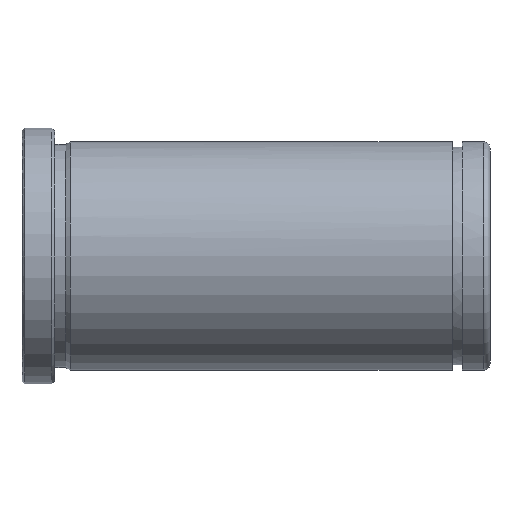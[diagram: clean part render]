
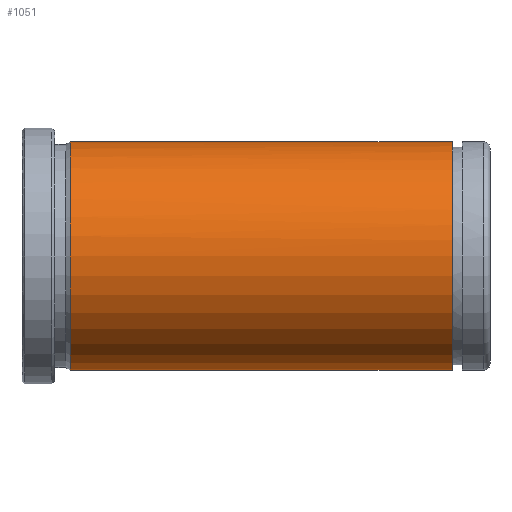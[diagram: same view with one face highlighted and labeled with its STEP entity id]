
A CAD part, front view. The second image highlights one B-rep face of the part: STEP entity #1051.
In plain terms, the highlighted cylindrical face has radius 21 mm (diameter 42 mm), a partial arc.
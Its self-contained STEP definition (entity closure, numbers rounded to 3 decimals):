
#851=CARTESIAN_POINT('Vertex',(8.866,0.,-21.)) ;
#858=CARTESIAN_POINT('Vertex',(8.866,0.,21.)) ;
#887=CARTESIAN_POINT('Axis2P3D Location',(8.866,0.,0.)) ;
#891=CARTESIAN_POINT('Vertex',(8.866,-21.,0.)) ;
#894=CARTESIAN_POINT('Axis2P3D Location',(8.866,0.,0.)) ;
#985=CARTESIAN_POINT('Line Origine',(172.,0.,21.)) ;
#989=CARTESIAN_POINT('Vertex',(79.05,0.,21.)) ;
#1006=CARTESIAN_POINT('Vertex',(79.05,0.,-21.)) ;
#1009=CARTESIAN_POINT('Line Origine',(172.,0.,-21.)) ;
#1023=CARTESIAN_POINT('Axis2P3D Location',(172.,0.,0.)) ;
#1028=CARTESIAN_POINT('Axis2P3D Location',(79.05,0.,0.)) ;
#1032=CARTESIAN_POINT('Vertex',(79.05,-21.,0.)) ;
#1036=CARTESIAN_POINT('Control Point',(79.05,0.,21.)) ;
#1037=CARTESIAN_POINT('Control Point',(79.05,-6.597,21.)) ;
#1038=CARTESIAN_POINT('Control Point',(79.05,-13.201,18.417)) ;
#1039=CARTESIAN_POINT('Control Point',(79.05,-18.417,13.201)) ;
#1040=CARTESIAN_POINT('Control Point',(79.05,-21.,6.597)) ;
#1041=CARTESIAN_POINT('Control Point',(79.05,-21.,0.)) ;
#888=DIRECTION('Axis2P3D Direction',(1.,0.,-0.)) ;
#895=DIRECTION('Axis2P3D Direction',(1.,0.,-0.)) ;
#986=DIRECTION('Vector Direction',(-1.,0.,0.)) ;
#1010=DIRECTION('Vector Direction',(-1.,0.,0.)) ;
#1024=DIRECTION('Axis2P3D Direction',(-1.,-0.,-0.)) ;
#1025=DIRECTION('Axis2P3D XDirection',(0.,0.,-1.)) ;
#1029=DIRECTION('Axis2P3D Direction',(-1.,-0.,-0.)) ;
#889=AXIS2_PLACEMENT_3D('Circle Axis2P3D',#887,#888,$) ;
#896=AXIS2_PLACEMENT_3D('Circle Axis2P3D',#894,#895,$) ;
#1026=AXIS2_PLACEMENT_3D('Cylinder Axis2P3D',#1023,#1024,#1025) ;
#1030=AXIS2_PLACEMENT_3D('Circle Axis2P3D',#1028,#1029,$) ;
#1044=ORIENTED_EDGE('',*,*,#1013,.T.) ;
#1045=ORIENTED_EDGE('',*,*,#1034,.F.) ;
#1046=ORIENTED_EDGE('',*,*,#1042,.F.) ;
#1047=ORIENTED_EDGE('',*,*,#991,.T.) ;
#1048=ORIENTED_EDGE('',*,*,#898,.T.) ;
#1049=ORIENTED_EDGE('',*,*,#893,.T.) ;
#987=VECTOR('Line Direction',#986,1.) ;
#1011=VECTOR('Line Direction',#1010,1.) ;
#1051=ADVANCED_FACE('553-32X86',(#1050),#1027,.T.) ;
#1035=B_SPLINE_CURVE_WITH_KNOTS('',5,(#1036,#1037,#1038,#1039,#1040,#1041),.UNSPECIFIED.,.F.,.U.,(6,6),(-16.493,16.493),.UNSPECIFIED.) ;
#890=CIRCLE('generated circle',#889,21.) ;
#897=CIRCLE('generated circle',#896,21.) ;
#1031=CIRCLE('generated circle',#1030,21.) ;
#1027=CYLINDRICAL_SURFACE('generated cylinder',#1026,21.) ;
#893=EDGE_CURVE('',#892,#852,#890,.T.) ;
#898=EDGE_CURVE('',#859,#892,#897,.T.) ;
#991=EDGE_CURVE('',#990,#859,#988,.T.) ;
#1013=EDGE_CURVE('',#852,#1007,#1012,.F.) ;
#1034=EDGE_CURVE('',#1033,#1007,#1031,.F.) ;
#1042=EDGE_CURVE('',#990,#1033,#1035,.T.) ;
#1043=EDGE_LOOP('',(#1044,#1045,#1046,#1047,#1048,#1049)) ;
#1050=FACE_OUTER_BOUND('',#1043,.T.) ;
#988=LINE('Line',#985,#987) ;
#1012=LINE('Line',#1009,#1011) ;
#852=VERTEX_POINT('',#851) ;
#859=VERTEX_POINT('',#858) ;
#892=VERTEX_POINT('',#891) ;
#990=VERTEX_POINT('',#989) ;
#1007=VERTEX_POINT('',#1006) ;
#1033=VERTEX_POINT('',#1032) ;
